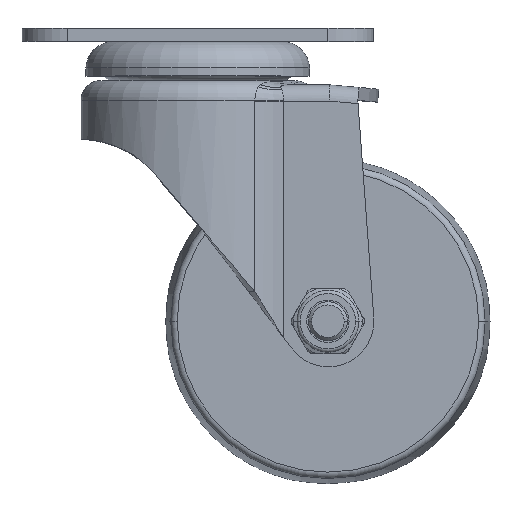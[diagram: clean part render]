
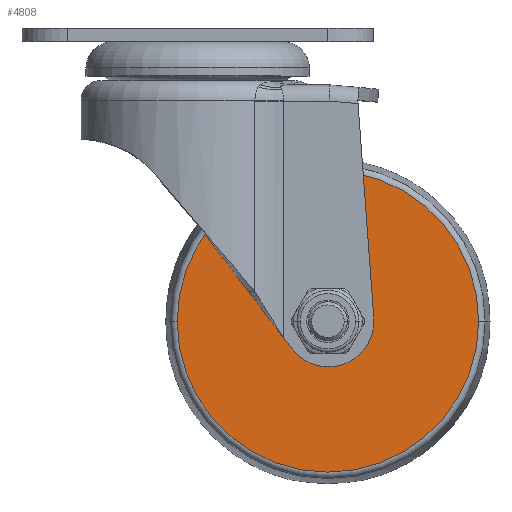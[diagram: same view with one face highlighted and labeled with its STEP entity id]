
A CAD part, top view. The second image highlights one B-rep face of the part: STEP entity #4808.
In plain terms, the highlighted planar face has unit normal (0, 0, 1) as drawn and (1, 0, 0) by its records, which use the part's own axes.
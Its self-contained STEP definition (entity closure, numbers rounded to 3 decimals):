
#4471=CARTESIAN_POINT('',(10.,0.,0.));
#4472=DIRECTION('',(-1.,0.,0.));
#4473=DIRECTION('',(0.,1.,0.));
#4474=AXIS2_PLACEMENT_3D('',#4471,#4472,#4473);
#4476=CARTESIAN_POINT('',(10.,0.,0.));
#4477=DIRECTION('',(1.,0.,0.));
#4478=DIRECTION('',(0.,1.,0.));
#4479=AXIS2_PLACEMENT_3D('',#4476,#4477,#4478);
#4481=CARTESIAN_POINT('',(10.,0.,0.));
#4482=DIRECTION('',(1.,0.,0.));
#4483=DIRECTION('',(0.,1.,0.));
#4484=AXIS2_PLACEMENT_3D('',#4481,#4482,#4483);
#4496=CARTESIAN_POINT('',(10.,0.,0.));
#4497=DIRECTION('',(-1.,0.,0.));
#4498=DIRECTION('',(0.,1.,0.));
#4499=AXIS2_PLACEMENT_3D('',#4496,#4497,#4498);
#4643=CARTESIAN_POINT('',(10.,6.353,0.));
#4644=VERTEX_POINT('',#4643);
#4663=CARTESIAN_POINT('',(10.,-6.353,0.));
#4664=VERTEX_POINT('',#4663);
#4675=CARTESIAN_POINT('',(10.,23.166,0.));
#4677=VERTEX_POINT('',#4675);
#4683=CARTESIAN_POINT('',(10.,-23.166,0.));
#4685=VERTEX_POINT('',#4683);
#4793=CARTESIAN_POINT('',(10.,0.,0.));
#4794=DIRECTION('',(1.,0.,0.));
#4795=DIRECTION('',(0.,-1.,0.));
#4796=AXIS2_PLACEMENT_3D('',#4793,#4794,#4795);
#4797=PLANE('',#4796);
#4799=ORIENTED_EDGE('',*,*,#4798,.F.);
#4801=ORIENTED_EDGE('',*,*,#4800,.T.);
#4802=EDGE_LOOP('',(#4799,#4801));
#4803=FACE_OUTER_BOUND('',#4802,.F.);
#4804=ORIENTED_EDGE('',*,*,#4772,.F.);
#4805=ORIENTED_EDGE('',*,*,#4788,.T.);
#4806=EDGE_LOOP('',(#4804,#4805));
#4807=FACE_BOUND('',#4806,.F.);
#4475=CIRCLE('',#4474,6.353);
#4480=CIRCLE('',#4479,6.353);
#4485=CIRCLE('',#4484,23.166);
#4500=CIRCLE('',#4499,23.166);
#4772=EDGE_CURVE('',#4644,#4664,#4475,.T.);
#4788=EDGE_CURVE('',#4644,#4664,#4480,.T.);
#4798=EDGE_CURVE('',#4677,#4685,#4485,.T.);
#4800=EDGE_CURVE('',#4677,#4685,#4500,.T.);
#4808=ADVANCED_FACE('',(#4803,#4807),#4797,.T.);
